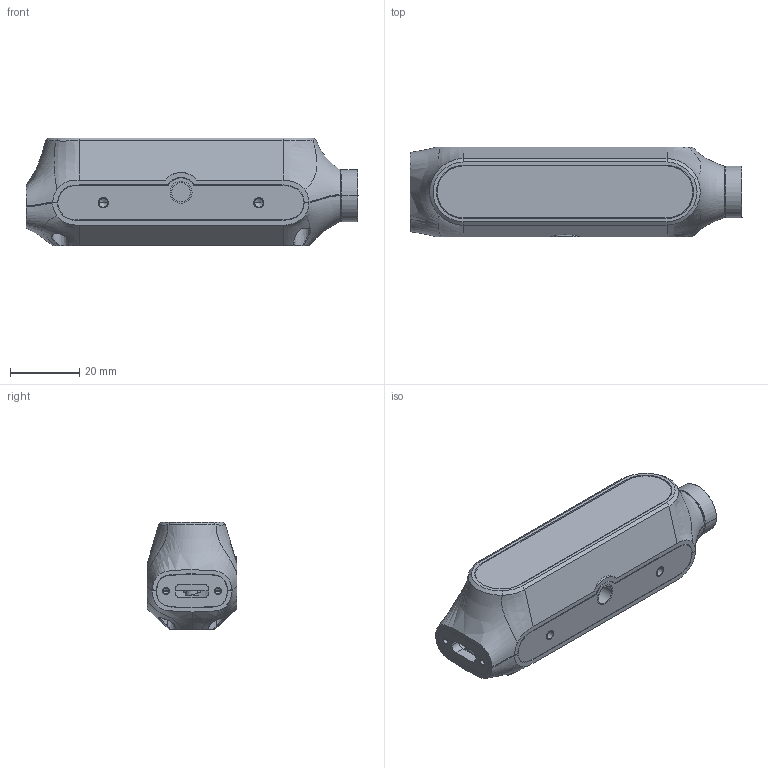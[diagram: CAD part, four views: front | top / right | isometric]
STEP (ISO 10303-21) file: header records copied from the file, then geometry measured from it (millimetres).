
FILE_DESCRIPTION((''),'2;1');
FILE_NAME('EB435I-SHELL_ASM','2024-02-05T15:24:04',('guotianbo'),(''),'CREO PARAMETRIC BY PTC INC, 2020044','CREO PARAMETRIC BY PTC INC, 2020044','');
FILE_SCHEMA(('AUTOMOTIVE_DESIGN { 1 0 10303 214 1 1 1 1 }'));
Products named in the file (6): DE-13-001208; DE-13-000836; DE-13-000835; DE-18-000219; DE-14-021185; EB435I-SHELL_ASM
Assembly tree (5 placements, depth 2):
  EB435I-SHELL_ASM
    DE-13-001208
    DE-13-000836
    DE-13-000835
    DE-18-000219
    DE-14-021185
Bounding box: 96.06 x 26 x 31.24 mm (x, y, z)
Volume: 29052.1 mm3; surface area: 32553.5 mm2
Topology: 5 solids, 25 shells, 1809 faces, 4617 edges, 2831 vertices
Faces by surface type: plane 499, cylinder 391, bspline 375, cone 193, torus 159, extrusion 127, sphere 65
Entity records: 107780 total; most frequent: CARTESIAN_POINT 59512, ORIENTED_EDGE 9084, DIRECTION 7307, EDGE_CURVE 4587, VERTEX_POINT 2831, AXIS2_PLACEMENT_3D 2758, PRESENTATION_STYLE_ASSIGNMENT 2295, STYLED_ITEM 2215
